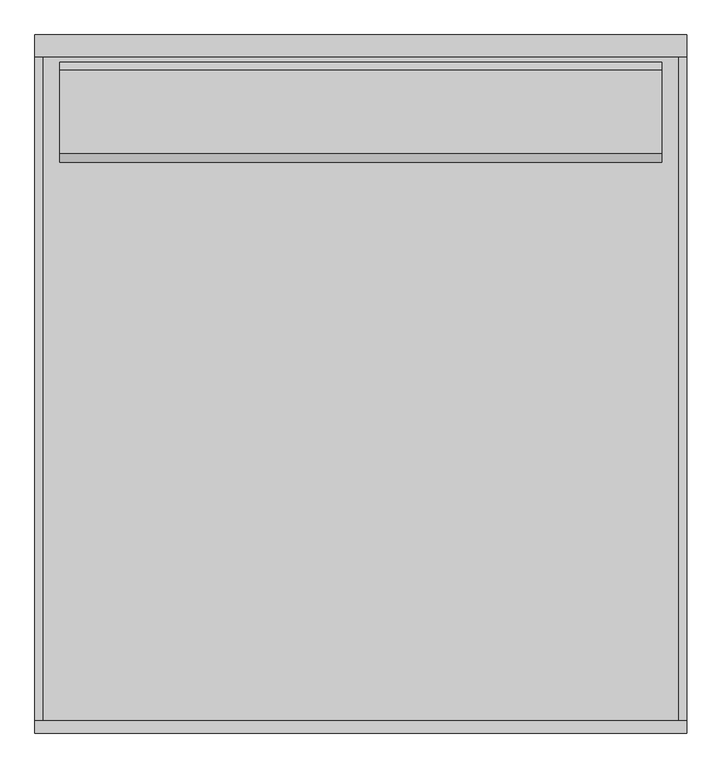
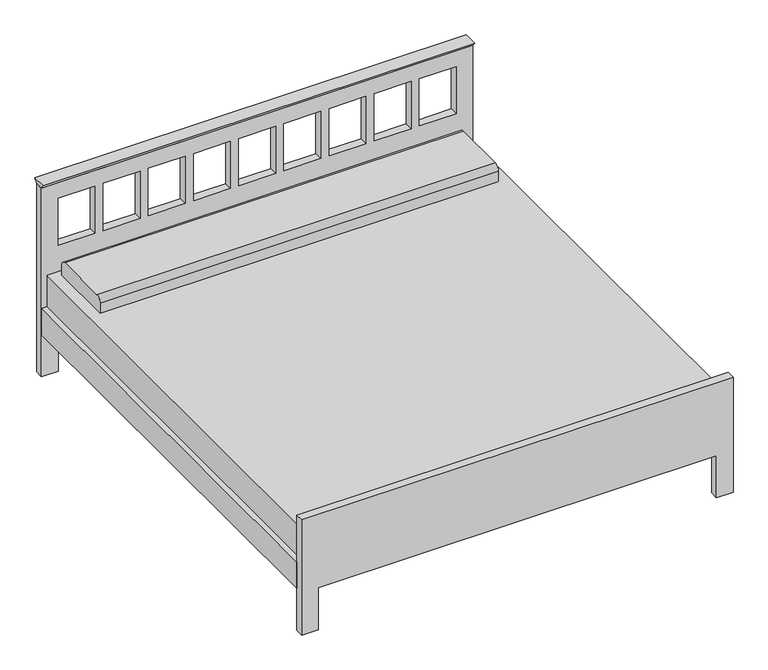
"""IFC4 building model written with IfcOpenShell, lengths in millimetres: furniture geometry, 침대-흔들장치 : 1981 x 2108mm - 킹."""

from ifc_helpers import new_model, si_unit, point, frame, frame_2d, origin, place, context, project, spatial, polyline, circle_curve, trimmed, segment, composite_curve, outline, extrude, source, transform, mapped, element, save


def furniture_142b1b11(model_context):
    return source(origin(), model_context, "Body", "SweptSolid", [
        extrude(outline(polyline([(-38.1, 914.4), (-51.9545455, 933.45), (13.8545455, 933.45), (0.0, 914.4), (-38.1, 914.4)])), frame((-1009.3365546, 0.0, 0.0), z_axis=(1.0, 0.0, 0.0), x_axis=(0.0, 1.0, 0.0)), (0.0, 0.0, 1.0), 1981.0533613),
        extrude(outline(composite_curve([segment(polyline([(-373.2486637, 482.6), (-373.2486637, 533.4)]), True, "CONTINUOUS"), segment(trimmed(circle_curve(frame_2d((-347.8486637, 533.4)), 25.4), [point((-373.2486637, 533.4))], [point((-347.8486637, 558.8))], False, "CARTESIAN"), True, "CONTINUOUS"), segment(polyline([(-347.8486637, 558.8), (-93.8486637, 558.8)]), True, "CONTINUOUS"), segment(trimmed(circle_curve(frame_2d((-93.8486637, 533.4)), 25.4), [point((-93.8486637, 558.8))], [point((-68.4486637, 533.4))], False, "CARTESIAN"), True, "CONTINUOUS"), segment(polyline([(-68.4486637, 533.4), (-68.4486637, 482.6), (-373.2486637, 482.6)]), True, "CONTINUOUS")], self_intersect=False)), frame((-933.35, 0.0, 0.0), z_axis=(1.0, 0.0, 0.0), x_axis=(0.0, 1.0, 0.0)), (0.0, 0.0, 1.0), 1828.6),
        extrude(outline(polyline([(946.05, -38.1), (946.05, -2069.9), (-984.15, -2069.9), (-984.15, -38.1), (946.05, -38.1)])), frame((0.0, 0.0, 228.6), z_axis=(0.0, 0.0, 1.0), x_axis=(1.0, 0.0, 0.0)), (0.0, 0.0, 1.0), 254.0),
        extrude(outline(polyline([(946.05, -2069.9), (946.05, -38.1), (971.45, -38.1), (971.45, -2069.9), (946.05, -2069.9)])), frame((0.0, 0.0, 203.0994861), z_axis=(0.0, 0.0, 1.0), x_axis=(1.0, 0.0, 0.0)), (0.0, 0.0, 1.0), 127.0),
        extrude(outline(polyline([(-1009.55, -2069.9), (-1009.55, -38.1), (-984.15, -38.1), (-984.15, -2069.9), (-1009.55, -2069.9)])), frame((0.0, 0.0, 203.5755296), z_axis=(0.0, 0.0, 1.0), x_axis=(1.0, 0.0, 0.0)), (0.0, 0.0, 1.0), 127.0),
        extrude(outline(polyline([(0.0, -933.35), (203.2, -933.35), (203.2, 895.25), (0.0, 895.25), (0.0, 971.45), (558.8, 971.45), (558.8, -1009.55), (0.0, -1009.55), (0.0, -933.35)])), frame((0.0, -2108.0, 0.0), z_axis=(0.0, 1.0, 0.0), x_axis=(0.0, 0.0, 1.0)), (0.0, 0.0, 1.0), 38.1),
        extrude(outline(polyline([(914.4, 971.7168067), (914.4, -1009.3365546), (0.0, -1009.3365546), (0.0, -933.35), (203.2, -933.35), (203.2, 895.25), (0.0, 895.25), (0.0, 971.7168067), (914.4, 971.7168067)]), holes=[polyline([(838.2, -764.0388889), (609.6, -764.0388889), (609.6, -933.35), (838.2, -933.35), (838.2, -764.0388889)]), polyline([(838.2, -556.6277778), (609.6, -556.6277778), (609.6, -725.9388889), (838.2, -725.9388889), (838.2, -556.6277778)]), polyline([(838.2, -349.2166667), (609.6, -349.2166667), (609.6, -518.5277778), (838.2, -518.5277778), (838.2, -349.2166667)]), polyline([(838.2, -141.8055556), (609.6, -141.8055556), (609.6, -311.1166667), (838.2, -311.1166667), (838.2, -141.8055556)]), polyline([(838.2, 273.0166667), (609.6, 273.0166667), (609.6, 103.7055556), (838.2, 103.7055556), (838.2, 273.0166667)]), polyline([(838.2, 480.4277778), (609.6, 480.4277778), (609.6, 311.1166667), (838.2, 311.1166667), (838.2, 480.4277778)]), polyline([(838.2, 687.8388889), (609.6, 687.8388889), (609.6, 518.5277778), (838.2, 518.5277778), (838.2, 687.8388889)]), polyline([(838.2, 895.25), (609.6, 895.25), (609.6, 725.9388889), (838.2, 725.9388889), (838.2, 895.25)]), polyline([(838.2, 65.6055556), (609.6, 65.6055556), (609.6, -103.7055556), (838.2, -103.7055556), (838.2, 65.6055556)])]), frame((0.0, -38.1, 0.0), z_axis=(0.0, 1.0, 0.0), x_axis=(0.0, 0.0, 1.0)), (0.0, 0.0, 1.0), 38.1),
    ])


if __name__ == "__main__":
    model = new_model("IFC4")
    model_context = context("Model", 3, world=origin())
    ifc_project = project(units=[si_unit("LENGTHUNIT", "METRE", prefix="MILLI")], contexts=[model_context])
    site = spatial("IfcSite", under=ifc_project)
    building = spatial("IfcBuilding", under=site)
    placement = place(None, origin())
    furniture_shape = furniture_142b1b11(model_context)
    element("IfcFurniture", 1, ObjectType="침대-흔들장치 : 1981 x 2108mm - 킹", at=placement, inside=building, context=model_context, shape_type="MappedRepresentation", body=[
        mapped(furniture_shape, transform((0.0, 0.0, 0.0), x_axis=(1.0, 0.0, 0.0), y_axis=(0.0, 1.0, 0.0), z_axis=(0.0, 0.0, 1.0))),
    ])
    save(model, "model.ifc")
